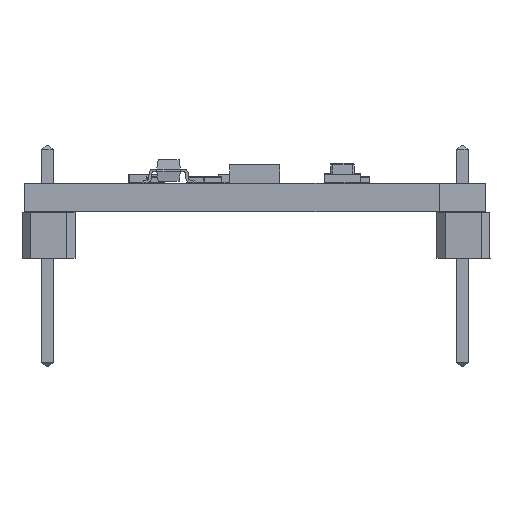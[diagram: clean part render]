
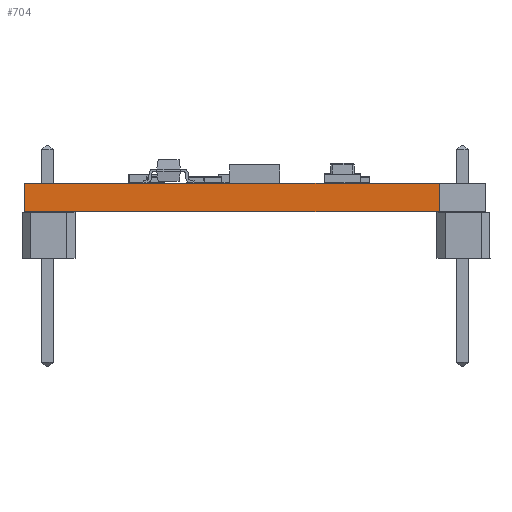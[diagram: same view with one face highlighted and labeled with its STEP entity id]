
A CAD part, front view. The second image highlights one B-rep face of the part: STEP entity #704.
In plain terms, the highlighted planar face has unit normal (0, -1, 0).
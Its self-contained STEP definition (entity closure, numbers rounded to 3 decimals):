
#679 = VERTEX_POINT('',#680);
#680 = CARTESIAN_POINT('',(21.59,-3.81,0.));
#686 = EDGE_CURVE('',#687,#679,#689,.T.);
#687 = VERTEX_POINT('',#688);
#688 = CARTESIAN_POINT('',(21.59,-3.81,-1.59));
#689 = LINE('',#690,#691);
#690 = CARTESIAN_POINT('',(21.59,-3.81,-1.59));
#691 = VECTOR('',#692,1.);
#692 = DIRECTION('',(0.,0.,1.));
#704 = ADVANCED_FACE('',(#705),#730,.T.);
#705 = FACE_BOUND('',#706,.T.);
#706 = EDGE_LOOP('',(#707,#708,#716,#724));
#707 = ORIENTED_EDGE('',*,*,#686,.T.);
#708 = ORIENTED_EDGE('',*,*,#709,.T.);
#709 = EDGE_CURVE('',#679,#710,#712,.T.);
#710 = VERTEX_POINT('',#711);
#711 = CARTESIAN_POINT('',(-1.27,-3.81,0.));
#712 = LINE('',#713,#714);
#713 = CARTESIAN_POINT('',(21.59,-3.81,0.));
#714 = VECTOR('',#715,1.);
#715 = DIRECTION('',(-1.,0.,0.));
#716 = ORIENTED_EDGE('',*,*,#717,.F.);
#717 = EDGE_CURVE('',#718,#710,#720,.T.);
#718 = VERTEX_POINT('',#719);
#719 = CARTESIAN_POINT('',(-1.27,-3.81,-1.59));
#720 = LINE('',#721,#722);
#721 = CARTESIAN_POINT('',(-1.27,-3.81,-1.59));
#722 = VECTOR('',#723,1.);
#723 = DIRECTION('',(0.,0.,1.));
#724 = ORIENTED_EDGE('',*,*,#725,.F.);
#725 = EDGE_CURVE('',#687,#718,#726,.T.);
#726 = LINE('',#727,#728);
#727 = CARTESIAN_POINT('',(21.59,-3.81,-1.59));
#728 = VECTOR('',#729,1.);
#729 = DIRECTION('',(-1.,0.,0.));
#730 = PLANE('',#731);
#731 = AXIS2_PLACEMENT_3D('',#732,#733,#734);
#732 = CARTESIAN_POINT('',(21.59,-3.81,-1.59));
#733 = DIRECTION('',(0.,-1.,0.));
#734 = DIRECTION('',(-1.,0.,0.));
